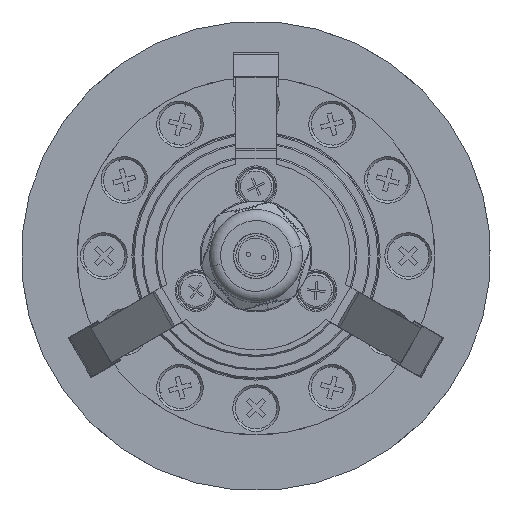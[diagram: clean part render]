
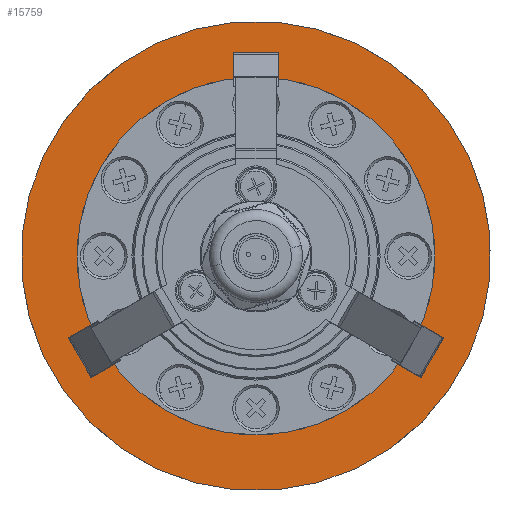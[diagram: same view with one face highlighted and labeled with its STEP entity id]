
A CAD part, left-side view. The second image highlights one B-rep face of the part: STEP entity #15759.
In plain terms, the highlighted planar face has unit normal (-1, 0, 0) as drawn and (0, 1, 0) by its records, which use the part's own axes.
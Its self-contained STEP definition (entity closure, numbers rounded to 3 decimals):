
#4221 = CARTESIAN_POINT ( 'NONE',  ( 0., 3.3, -40. ) ) ;
#6175 = EDGE_CURVE ( 'NONE', #22344, #62550, #43293, .T. ) ;
#8029 = EDGE_LOOP ( 'NONE', ( #65093, #68739 ) ) ;
#14935 = AXIS2_PLACEMENT_3D ( 'NONE', #69736, #52593, #41524 ) ;
#15759 = ADVANCED_FACE ( 'NONE', ( #46597, #29069 ), #24787, .T. ) ;
#16723 = CARTESIAN_POINT ( 'NONE',  ( 0., 3.3, -52.5 ) ) ;
#19477 = CIRCLE ( 'NONE', #31418, 52.5 ) ;
#20070 = DIRECTION ( 'NONE',  ( 0., -1., 0. ) ) ;
#22344 = VERTEX_POINT ( 'NONE', #16723 ) ;
#23615 = AXIS2_PLACEMENT_3D ( 'NONE', #35580, #64030, #30449 ) ;
#24787 = PLANE ( 'NONE',  #23615 ) ;
#27039 = CARTESIAN_POINT ( 'NONE',  ( 0., 3.3, 0. ) ) ;
#27683 = DIRECTION ( 'NONE',  ( 0., -1., 0. ) ) ;
#29069 = FACE_BOUND ( 'NONE', #49768, .T. ) ;
#29091 = ORIENTED_EDGE ( 'NONE', *, *, #41099, .T. ) ;
#30449 = DIRECTION ( 'NONE',  ( 0., 0., 1. ) ) ;
#30854 = DIRECTION ( 'NONE',  ( 0., 0., -1. ) ) ;
#31418 = AXIS2_PLACEMENT_3D ( 'NONE', #61294, #27683, #66940 ) ;
#31450 = CIRCLE ( 'NONE', #61003, 40. ) ;
#32651 = DIRECTION ( 'NONE',  ( 0., -1., 0. ) ) ;
#33568 = ORIENTED_EDGE ( 'NONE', *, *, #49043, .T. ) ;
#35580 = CARTESIAN_POINT ( 'NONE',  ( 40., 3.3, 0. ) ) ;
#36480 = VERTEX_POINT ( 'NONE', #63388 ) ;
#41099 = EDGE_CURVE ( 'NONE', #58072, #36480, #53312, .T. ) ;
#41524 = DIRECTION ( 'NONE',  ( 0., 0., -1. ) ) ;
#43078 = CARTESIAN_POINT ( 'NONE',  ( 0., 3.3, 0. ) ) ;
#43293 = CIRCLE ( 'NONE', #14935, 52.5 ) ;
#46597 = FACE_OUTER_BOUND ( 'NONE', #8029, .T. ) ;
#49043 = EDGE_CURVE ( 'NONE', #36480, #58072, #31450, .T. ) ;
#49768 = EDGE_LOOP ( 'NONE', ( #29091, #33568 ) ) ;
#52593 = DIRECTION ( 'NONE',  ( 0., -1., 0. ) ) ;
#53312 = CIRCLE ( 'NONE', #64047, 40. ) ;
#58072 = VERTEX_POINT ( 'NONE', #4221 ) ;
#59758 = EDGE_CURVE ( 'NONE', #62550, #22344, #19477, .T. ) ;
#61003 = AXIS2_PLACEMENT_3D ( 'NONE', #27039, #32651, #65801 ) ;
#61294 = CARTESIAN_POINT ( 'NONE',  ( 0., 3.3, 0. ) ) ;
#62550 = VERTEX_POINT ( 'NONE', #67555 ) ;
#63388 = CARTESIAN_POINT ( 'NONE',  ( 0., 3.3, 40. ) ) ;
#64030 = DIRECTION ( 'NONE',  ( 0., 1., 0. ) ) ;
#64047 = AXIS2_PLACEMENT_3D ( 'NONE', #43078, #20070, #30854 ) ;
#65093 = ORIENTED_EDGE ( 'NONE', *, *, #6175, .F. ) ;
#65801 = DIRECTION ( 'NONE',  ( 0., 0., -1. ) ) ;
#66940 = DIRECTION ( 'NONE',  ( 0., 0., -1. ) ) ;
#67555 = CARTESIAN_POINT ( 'NONE',  ( 0., 3.3, 52.5 ) ) ;
#68739 = ORIENTED_EDGE ( 'NONE', *, *, #59758, .F. ) ;
#69736 = CARTESIAN_POINT ( 'NONE',  ( 0., 3.3, 0. ) ) ;
